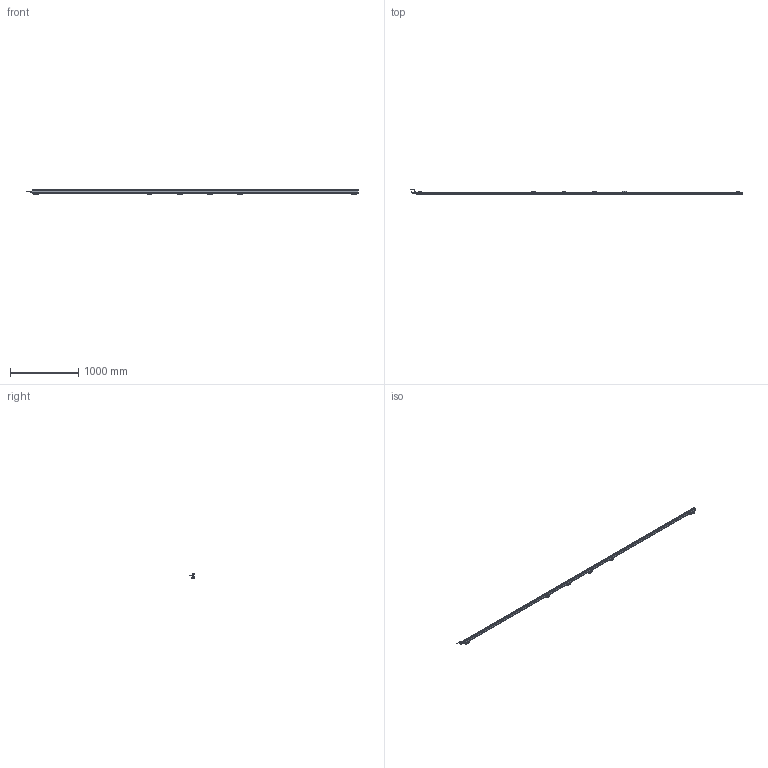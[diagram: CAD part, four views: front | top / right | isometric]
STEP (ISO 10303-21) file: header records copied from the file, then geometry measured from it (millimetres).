
FILE_DESCRIPTION(('Bauteilbeschreibung','HiCAD-Model','HiCAD-STEP-TRANSLATION','Bauteilbeschreibung'),'2;1');
FILE_NAME('PERFORMAXIQEASY_4710-4800_3D.STP','2014-03-05T13:47:59+00:00',('Konstrukteur'),('Konstrukteur Firma GmbH'),' HiCAD 2011, Step 1600.0 ','HiCAD 2011','confidential');
FILE_SCHEMA(('AUTOMOTIVE_DESIGN { 1 2 10303 214 0 1 1 1 }'));
Products named in the file (56): PERFORMAXIQEASY_4710_4800_3D; A_PERFORMAX IQ EASY 4710_4800; A_PERFORMAX IQ EASY SPEED; A_CAP DE; A_CAP CE_5; LED_2C_3MM; LED02C03MM; A519020315_CONNECTOR APPLIANCE; A_INSERT; A_CONTACTS; A_HOUSING; A_PROFILE; A_POTTING; PIN; PIN0; A532000100_BRACKET BARS_ MOUNT; A_SIDE PIECE; A0SIDE0PIECE; A_BRACKET SMALL; A_SLIDE PIECE; A5320001000BRACKET0BARS00MOUNT; A0SIDE0PIECE0; A0SIDE0PIECE1; A0BRACKET0SMALL; A0SLIDE0PIECE; A5320001000BRACKET0BARS00MOUNT0; A0SIDE0PIECE2; A0SIDE0PIECE3; A0BRACKET0SMALL0; A0SLIDE0PIECE0; A0SIDE0PIECE4; A0SIDE0PIECE5; A0BRACKET0SMALL1; A0SLIDE0PIECE1; A0SIDE0PIECE6; A0SIDE0PIECE7; A0BRACKET0SMALL2; A0SLIDE0PIECE2; A0SIDE0PIECE8; A0SIDE0PIECE9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
Assembly tree (55 placements, depth 5):
  PERFORMAXIQEASY_4710_4800_3D
    A_PERFORMAX IQ EASY 4710_4800
      A_PERFORMAX IQ EASY SPEED
        A_CAP DE
        A_CAP CE_5
        LED_2C_3MM
        LED02C03MM
        A519020315_CONNECTOR APPLIANCE
          A_INSERT
          A_CONTACTS
          A_HOUSING
        A_PROFILE
        A_POTTING
        PIN
        PIN0
      A532000100_BRACKET BARS_ MOUNT
        A_SIDE PIECE
        A0SIDE0PIECE
        A_BRACKET SMALL
        A_SLIDE PIECE
      A5320001000BRACKET0BARS00MOUNT
        A0SIDE0PIECE0
        A0SIDE0PIECE1
        A0BRACKET0SMALL
        A0SLIDE0PIECE
      A5320001000BRACKET0BARS00MOUNT0
        A0SIDE0PIECE2
        A0SIDE0PIECE3
        A0BRACKET0SMALL0
        A0SLIDE0PIECE0
      A5320001000BRACKET0BARS00MOUNT0
        A0SIDE0PIECE4
        A0SIDE0PIECE5
        A0BRACKET0SMALL1
        A0SLIDE0PIECE1
      A5320001000BRACKET0BARS00MOUNT0
        A0SIDE0PIECE6
        A0SIDE0PIECE7
        A0BRACKET0SMALL2
        A0SLIDE0PIECE2
      A5320001000BRACKET0BARS00MOUNT0
        A0SIDE0PIECE8
        A0SIDE0PIECE9
        A0BRACKET0SMALL3
        A0SLIDE0PIECE3
      A_CONNECTOR STRAIGHT
        EXTRUDED SOLID_0
        DRAAD GEBOGEN
        REVOLVED SOLID_1
        REVOLVED SOLID_3
      A_CONNECTOR ANGLED
        REVOLVED0SOLID01
        EXTRUDED0SOLID00
        C_EDGE SWEEP_0
        REVOLVED SOLID_2
        REVOLVED0SOLID03
Bounding box: 4877.89 x 84.24 x 63.13 mm (x, y, z)
Volume: 4913421 mm3; surface area: 1168971.7 mm2
Topology: 49 solids, 49 shells, 4983 faces, 12800 edges, 7585 vertices
Faces by surface type: cylinder 2137, plane 1879, sphere 332, torus 299, bspline 248, cone 88
Full cylindrical faces by diameter (mm): 0.8 x10, 1 x5, 2.387 x12, 3 x27, 3.1 x1, 4.2 x2, 5 x4, 5.5 x30, 8 x2, 8.2 x1, 8.4 x2, 8.945 x1, 9 x2, 10.2 x1, 10.5 x3, 11 x1, 12 x3, 12.8 x1, 13.8 x4, 14.5 x3
Entity records: 231105 total; most frequent: CARTESIAN_POINT 54548, DIRECTION 24777, ORIENTED_EDGE 24320, EDGE_CURVE 12160, COLOUR_RGB 11541, PRESENTATION_STYLE_ASSIGNMENT 11541, OVER_RIDING_STYLED_ITEM 11497, CURVE_STYLE 11492
